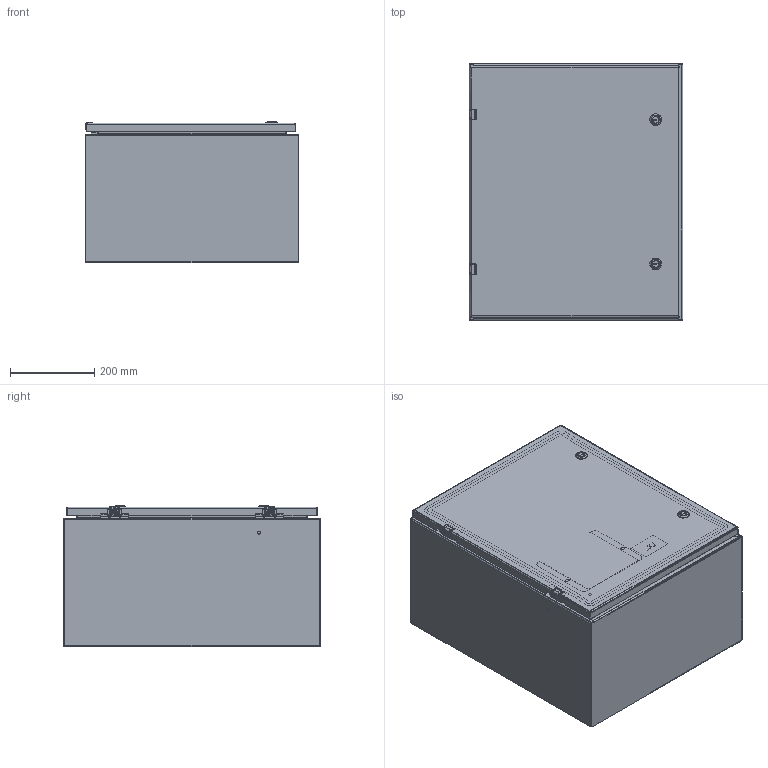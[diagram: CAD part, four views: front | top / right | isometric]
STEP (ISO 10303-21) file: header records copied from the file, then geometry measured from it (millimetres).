
FILE_DESCRIPTION((''),'2;1');
FILE_NAME('MODEL-306_ASM','2026-04-09T10:21:12',('andrew.knowlton'),('SAGINAW CONTROL & ENGINEERING'),'CREO PARAMETRIC BY PTC INC, 2021284','CREO PARAMETRIC BY PTC INC, 2021284','');
FILE_SCHEMA(('AUTOMOTIVE_DESIGN { 1 0 10303 214 1 1 1 1 }'));
Length unit declared in the file: inch
Products named in the file (30): MODEL-306-BDY; MODEL-306-TP; MODEL-306-BTM; MODEL-306-DR; 100837; 100882; 111541; 125597; 100794_SHAFT; 100794_INSERT; 100794_CAM; 100794_NUT; 100794_SCREW; 100794_ASM; MODEL-306-DOOR-GASKET; 126392; 126392_ASM; 126395; 102483; 101226; 101389; 102140; 132757; MODEL-306-DOOR-ASSY_ASM; 101653; 122191; SUBPANEL; 100904; SUBPANEL-SUBASSEMBLY_ASM; MODEL-306_ASM
Assembly tree (51 placements, depth 4):
  MODEL-306_ASM
    MODEL-306-BDY
    MODEL-306-TP
    MODEL-306-BTM
    MODEL-306-DOOR-ASSY_ASM
      MODEL-306-DR
      100837  x3
      100882  x2
      111541
      125597
      100794_ASM  x2
        100794_SHAFT
        100794_INSERT
        100794_CAM
        100794_NUT
        100794_SCREW
      MODEL-306-DOOR-GASKET
      126392_ASM  x2
        126392
      126395  x2
      102483  x6
      101226  x2
      101389  x2
      102140  x2
      132757  x2
    100837
    101653  x4
    122191
    SUBPANEL-SUBASSEMBLY_ASM
      SUBPANEL
      100904  x4
Bounding box: 508 x 609.6 x 335.93 mm (x, y, z)
Volume: 3834197 mm3; surface area: 3576175.6 mm2
Topology: 52 solids, 52 shells, 3093 faces, 7860 edges, 4938 vertices
Faces by surface type: plane 1400, cylinder 855, bspline 436, torus 222, cone 124, sphere 56
Entity records: 86638 total; most frequent: CARTESIAN_POINT 24027, ORIENTED_EDGE 9000, DIRECTION 8508, PRESENTATION_STYLE_ASSIGNMENT 4701, EDGE_CURVE 4500, STYLED_ITEM 4424, CURVE_STYLE 4338, AXIS2_PLACEMENT_3D 3077
